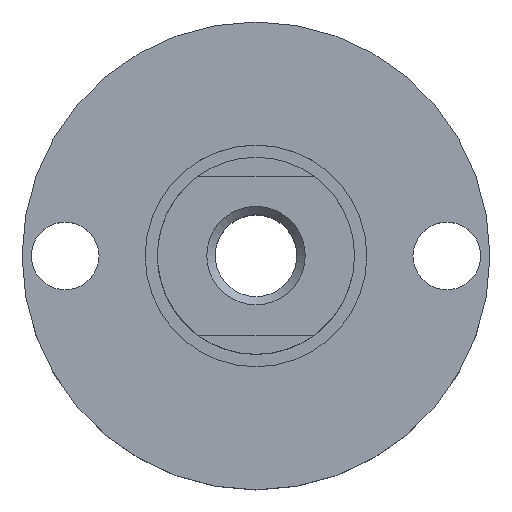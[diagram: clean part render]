
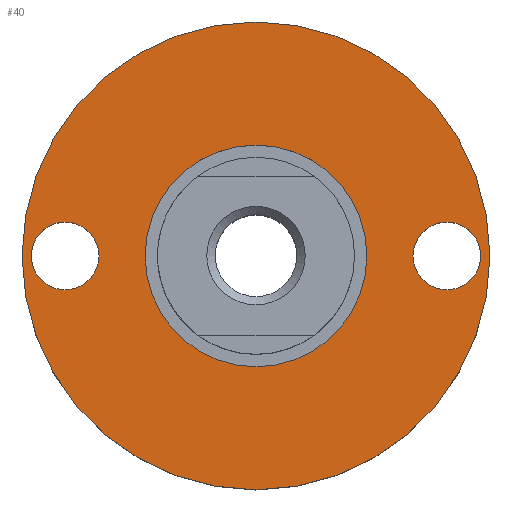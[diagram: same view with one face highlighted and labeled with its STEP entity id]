
A CAD part, top view. The second image highlights one B-rep face of the part: STEP entity #40.
In plain terms, the highlighted planar face has unit normal (0, 0, 1).
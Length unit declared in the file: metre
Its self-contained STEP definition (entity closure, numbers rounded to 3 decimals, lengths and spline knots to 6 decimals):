
#40 = ADVANCED_FACE( '', ( #89, #90, #91, #92 ), #93, .F. );
#89 = FACE_BOUND( '', #160, .T. );
#90 = FACE_BOUND( '', #161, .T. );
#91 = FACE_OUTER_BOUND( '', #162, .T. );
#92 = FACE_BOUND( '', #163, .T. );
#93 = PLANE( '', #164 );
#160 = EDGE_LOOP( '', ( #225 ) );
#161 = EDGE_LOOP( '', ( #226 ) );
#162 = EDGE_LOOP( '', ( #227 ) );
#163 = EDGE_LOOP( '', ( #228 ) );
#164 = AXIS2_PLACEMENT_3D( '', #229, #230, #231 );
#225 = ORIENTED_EDGE( '', *, *, #339, .F. );
#226 = ORIENTED_EDGE( '', *, *, #340, .F. );
#227 = ORIENTED_EDGE( '', *, *, #341, .T. );
#228 = ORIENTED_EDGE( '', *, *, #342, .T. );
#229 = CARTESIAN_POINT( '', ( 0., 0., 0.008 ) );
#230 = DIRECTION( '', ( 0., 0., -1. ) );
#231 = DIRECTION( '', ( 1., 0., 0. ) );
#339 = EDGE_CURVE( '', #380, #380, #381, .T. );
#340 = EDGE_CURVE( '', #382, #382, #383, .T. );
#341 = EDGE_CURVE( '', #384, #384, #385, .T. );
#342 = EDGE_CURVE( '', #386, #386, #387, .F. );
#380 = VERTEX_POINT( '', #442 );
#381 = CIRCLE( '', #443, 0.00275 );
#382 = VERTEX_POINT( '', #444 );
#383 = CIRCLE( '', #445, 0.00275 );
#384 = VERTEX_POINT( '', #446 );
#385 = CIRCLE( '', #447, 0.019 );
#386 = VERTEX_POINT( '', #448 );
#387 = CIRCLE( '', #449, 0.009 );
#442 = CARTESIAN_POINT( '', ( -0.01825, 0., 0.008 ) );
#443 = AXIS2_PLACEMENT_3D( '', #511, #512, #513 );
#444 = CARTESIAN_POINT( '', ( 0.01825, 0., 0.008 ) );
#445 = AXIS2_PLACEMENT_3D( '', #514, #515, #516 );
#446 = CARTESIAN_POINT( '', ( 0.019, 0., 0.008 ) );
#447 = AXIS2_PLACEMENT_3D( '', #517, #518, #519 );
#448 = CARTESIAN_POINT( '', ( 0.009, 0., 0.008 ) );
#449 = AXIS2_PLACEMENT_3D( '', #520, #521, #522 );
#511 = CARTESIAN_POINT( '', ( -0.0155, 0., 0.008 ) );
#512 = DIRECTION( '', ( 0., 0., 1. ) );
#513 = DIRECTION( '', ( -1., 0., 0. ) );
#514 = CARTESIAN_POINT( '', ( 0.0155, 0., 0.008 ) );
#515 = DIRECTION( '', ( 0., 0., 1. ) );
#516 = DIRECTION( '', ( 1., 0., 0. ) );
#517 = CARTESIAN_POINT( '', ( 0., 0., 0.008 ) );
#518 = DIRECTION( '', ( 0., 0., 1. ) );
#519 = DIRECTION( '', ( 1., 0., 0. ) );
#520 = CARTESIAN_POINT( '', ( 0., 0., 0.008 ) );
#521 = DIRECTION( '', ( 0., 0., 1. ) );
#522 = DIRECTION( '', ( 1., 0., 0. ) );
